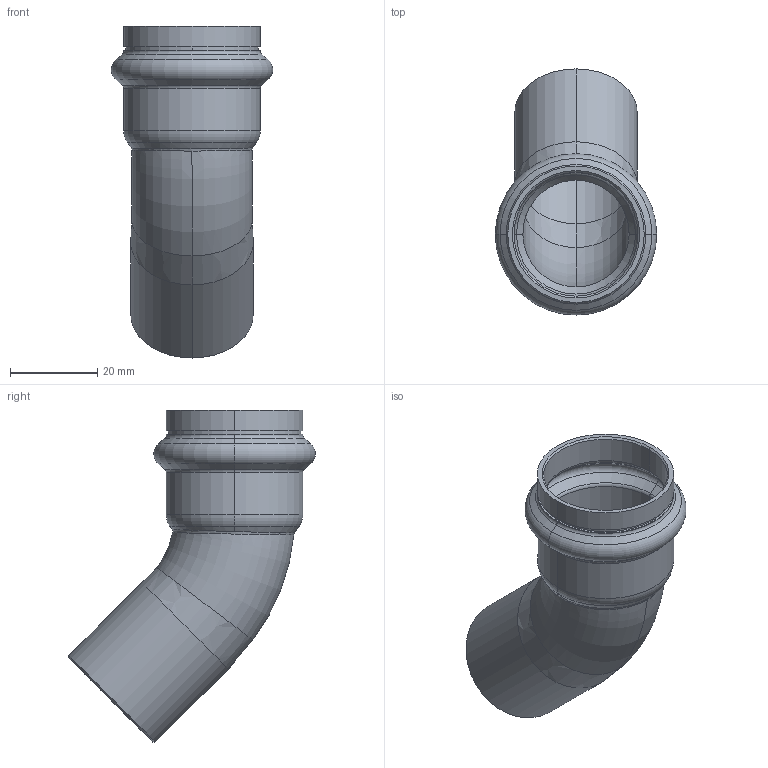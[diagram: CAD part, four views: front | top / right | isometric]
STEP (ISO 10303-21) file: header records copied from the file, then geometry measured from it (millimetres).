
FILE_DESCRIPTION (( 'STEP AP203' ), '1' );
FILE_NAME ('SP5040 Ø28.STEP', '2017-04-24T08:10:12', ( '' ), ( '' ), 'SwSTEP 2.0', 'SolidWorks 2016', '' );
FILE_SCHEMA (( 'CONFIG_CONTROL_DESIGN' ));
Length unit declared in the file: millimetre
Products named in the file (1): SP5040 ﾘ28
Bounding box: 36.9 x 56.35 x 75.9 mm (x, y, z)
Volume: 10638.1 mm3; surface area: 14212.9 mm2
Topology: 1 solids, 1 shells, 62 faces, 130 edges, 72 vertices
Faces by surface type: torus 20, cone 16, cylinder 16, bspline 6, plane 4
Entity records: 2520 total; most frequent: CARTESIAN_POINT 1116, DIRECTION 310, ORIENTED_EDGE 260, AXIS2_PLACEMENT_3D 139, EDGE_CURVE 130, CIRCLE 82, VERTEX_POINT 72, EDGE_LOOP 66
